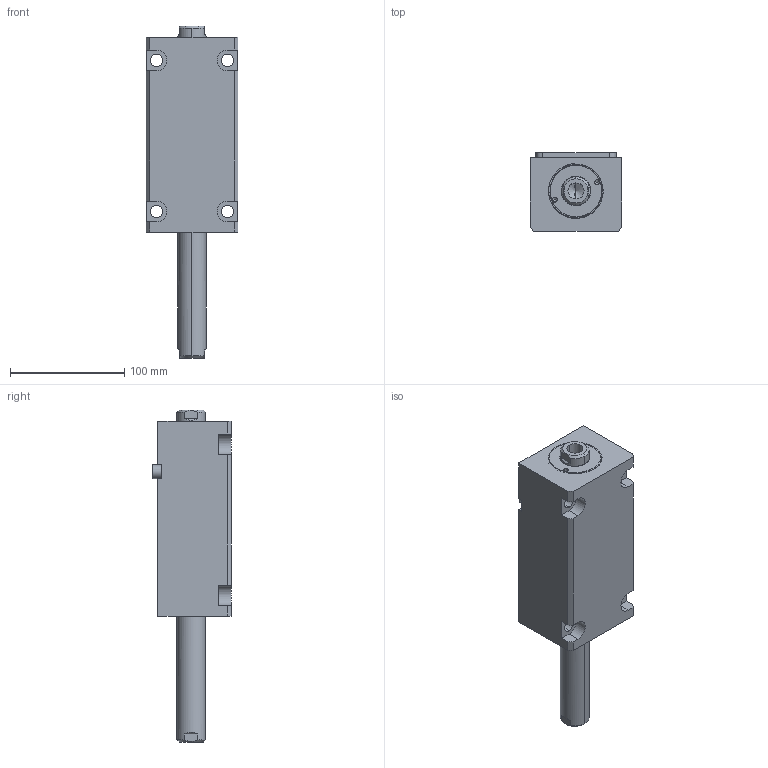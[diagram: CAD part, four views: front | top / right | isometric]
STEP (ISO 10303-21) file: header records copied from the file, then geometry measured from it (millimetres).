
FILE_DESCRIPTION (( 'STEP AP214' ), '1' );
FILE_NAME ('chtb-lwm40x100n_asm.STEP', '2018-05-30T08:27:24', ( 'Windows' ), ( 'Microsoft' ), 'SwSTEP 2.0', 'SolidWorks 2015', '' );
FILE_SCHEMA (( 'AUTOMOTIVE_DESIGN' ));
Length unit declared in the file: millimetre
Products named in the file (5): CHTB-SW40X100NHSG; CHTB-LWM40X100NBT; chtb-lwm40x100n_asm; CHTB-SD40QG; CHTB-LA40PJ
Assembly tree (4 placements, depth 2):
  chtb-lwm40x100n_asm
    CHTB-LWM40X100NBT
    CHTB-SW40X100NHSG
    CHTB-LA40PJ
    CHTB-SD40QG
Bounding box: 80 x 68.5 x 290 mm (x, y, z)
Volume: 811026.4 mm3; surface area: 128379.8 mm2
Topology: 4 solids, 4 shells, 166 faces, 450 edges, 296 vertices
Faces by surface type: cylinder 77, plane 50, bspline 14, cone 13, torus 12
Entity records: 10488 total; most frequent: CARTESIAN_POINT 6156, ORIENTED_EDGE 880, DIRECTION 821, EDGE_CURVE 440, AXIS2_PLACEMENT_3D 326, VERTEX_POINT 296, EDGE_LOOP 196, VECTOR 169
